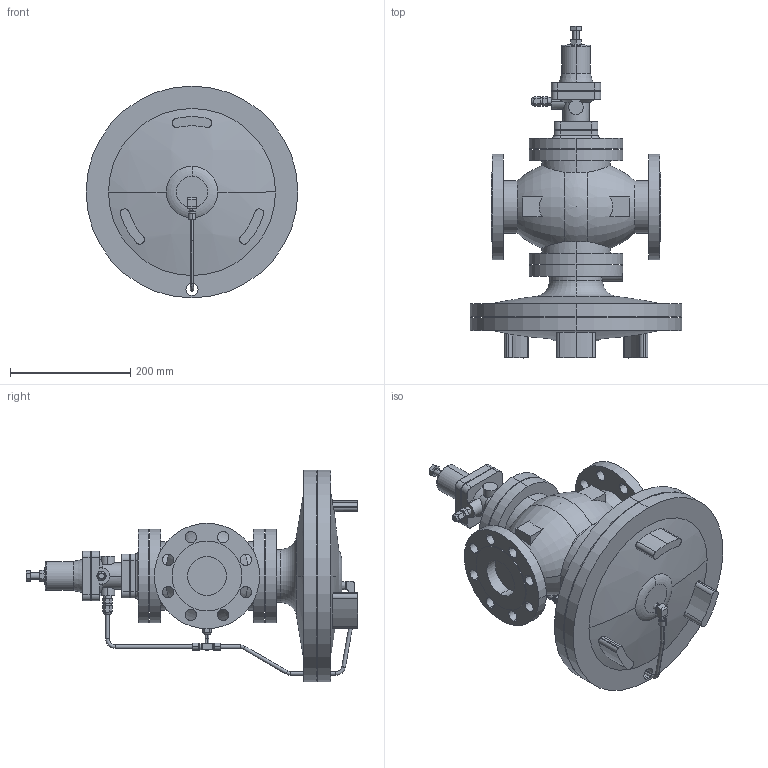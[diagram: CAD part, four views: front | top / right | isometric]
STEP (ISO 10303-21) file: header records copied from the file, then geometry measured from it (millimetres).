
FILE_DESCRIPTION (( 'STEP AP203' ), '1' );
FILE_NAME ('GPR-2000 JIS20K 65A.STEP', '2025-12-05T02:44:23', ( '' ), ( '' ), 'SwSTEP 2.0', 'SolidWorks 2024', '' );
FILE_SCHEMA (( 'CONFIG_CONTROL_DESIGN' ));
Length unit declared in the file: millimetre
Products named in the file (8): Elbow; GPR-2000 Body Assy EN PN25 65A; Pipe C 65A; GP-2000 Pipe A 65A; Tee; Joint; Pipe B 65A; GPR-2000 JIS20K 65A
Assembly tree (9 placements, depth 2):
  GPR-2000 JIS20K 65A
    GPR-2000 Body Assy EN PN25 65A
    Tee
    Joint  x3
    Pipe B 65A
    GP-2000 Pipe A 65A
    Elbow
    Pipe C 65A
Bounding box: 352 x 551.7 x 352 mm (x, y, z)
Volume: 11638277 mm3; surface area: 741135.3 mm2
Topology: 9 solids, 9 shells, 446 faces, 1105 edges, 731 vertices
Faces by surface type: cylinder 199, plane 192, cone 25, torus 24, sphere 6
Entity records: 13930 total; most frequent: CARTESIAN_POINT 3304, DIRECTION 2160, ORIENTED_EDGE 1930, EDGE_CURVE 965, AXIS2_PLACEMENT_3D 857, VERTEX_POINT 631, EDGE_LOOP 488, LINE 446
